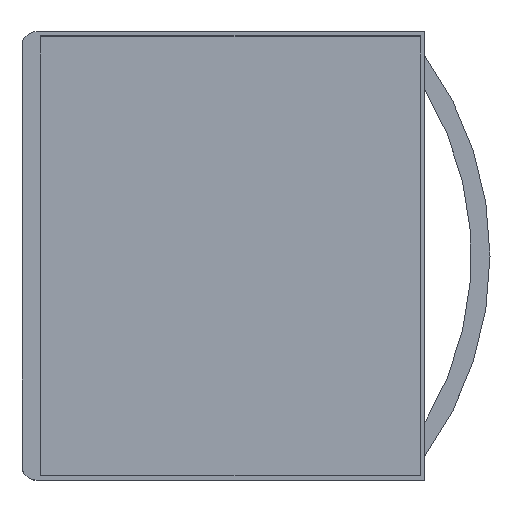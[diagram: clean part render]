
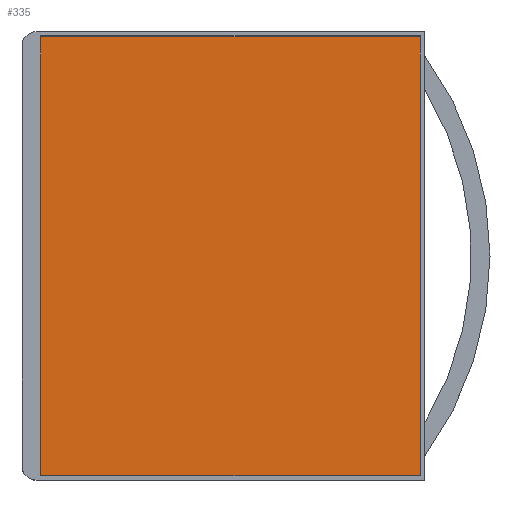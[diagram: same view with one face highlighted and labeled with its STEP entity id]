
A CAD part, top view. The second image highlights one B-rep face of the part: STEP entity #335.
In plain terms, the highlighted planar face has unit normal (0, 0, 1).
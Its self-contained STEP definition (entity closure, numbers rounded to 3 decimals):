
#28=PLANE('',#377);
#46=FACE_OUTER_BOUND('',#65,.T.);
#65=EDGE_LOOP('',(#296,#297,#298,#299));
#96=LINE('',#550,#131);
#99=LINE('',#555,#134);
#101=LINE('',#559,#136);
#103=LINE('',#562,#138);
#131=VECTOR('',#452,10.);
#134=VECTOR('',#457,10.);
#136=VECTOR('',#461,10.);
#138=VECTOR('',#465,10.);
#176=VERTEX_POINT('',#548);
#177=VERTEX_POINT('',#549);
#178=VERTEX_POINT('',#554);
#179=VERTEX_POINT('',#558);
#216=EDGE_CURVE('',#176,#177,#96,.F.);
#219=EDGE_CURVE('',#177,#178,#99,.F.);
#221=EDGE_CURVE('',#178,#179,#101,.F.);
#223=EDGE_CURVE('',#179,#176,#103,.F.);
#296=ORIENTED_EDGE('',*,*,#221,.T.);
#297=ORIENTED_EDGE('',*,*,#223,.T.);
#298=ORIENTED_EDGE('',*,*,#216,.T.);
#299=ORIENTED_EDGE('',*,*,#219,.T.);
#335=ADVANCED_FACE('',(#46),#28,.F.);
#377=AXIS2_PLACEMENT_3D('',#563,#466,#467);
#452=DIRECTION('',(0.,1.,0.));
#457=DIRECTION('',(-1.,0.,0.));
#461=DIRECTION('',(0.,-1.,0.));
#465=DIRECTION('',(1.,0.,0.));
#466=DIRECTION('center_axis',(0.,0.,-1.));
#467=DIRECTION('ref_axis',(0.,1.,0.));
#548=CARTESIAN_POINT('',(8.,47.,-8.6));
#549=CARTESIAN_POINT('',(8.,-47.,-8.6));
#550=CARTESIAN_POINT('',(8.,-47.45,-8.6));
#554=CARTESIAN_POINT('',(89.1,-47.,-8.6));
#555=CARTESIAN_POINT('',(46.55,-47.,-8.6));
#558=CARTESIAN_POINT('',(89.1,47.,-8.6));
#559=CARTESIAN_POINT('',(89.1,-0.45,-8.6));
#562=CARTESIAN_POINT('',(6.,47.,-8.6));
#563=CARTESIAN_POINT('Origin',(4.,-47.9,-8.6));
